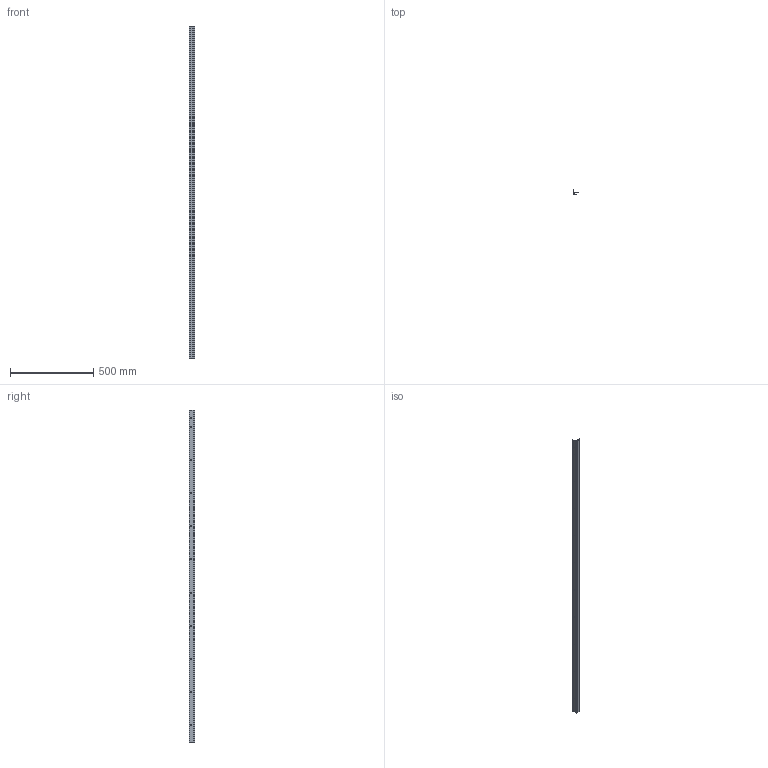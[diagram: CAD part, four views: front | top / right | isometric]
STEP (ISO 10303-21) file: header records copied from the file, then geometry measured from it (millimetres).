
FILE_DESCRIPTION (( 'STEP AP214' ), '1' );
FILE_NAME ('PC10120.STEP', '2021-06-10T07:43:15', ( '' ), ( '' ), 'SwSTEP 2.0', 'SolidWorks 2021', '' );
FILE_SCHEMA (( 'AUTOMOTIVE_DESIGN' ));
Length unit declared in the file: millimetre
Products named in the file (1): PC10120
Bounding box: 36 x 31.3 x 2000 mm (x, y, z)
Volume: 296643 mm3; surface area: 400176.1 mm2
Topology: 1 solids, 1 shells, 129 faces, 414 edges, 276 vertices
Faces by surface type: plane 68, cylinder 61
Entity records: 4690 total; most frequent: CARTESIAN_POINT 952, ORIENTED_EDGE 828, DIRECTION 774, EDGE_CURVE 414, VERTEX_POINT 276, AXIS2_PLACEMENT_3D 274, LINE 226, VECTOR 226
